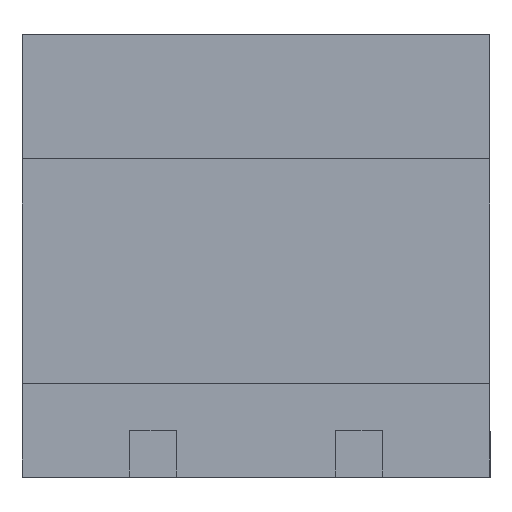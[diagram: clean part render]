
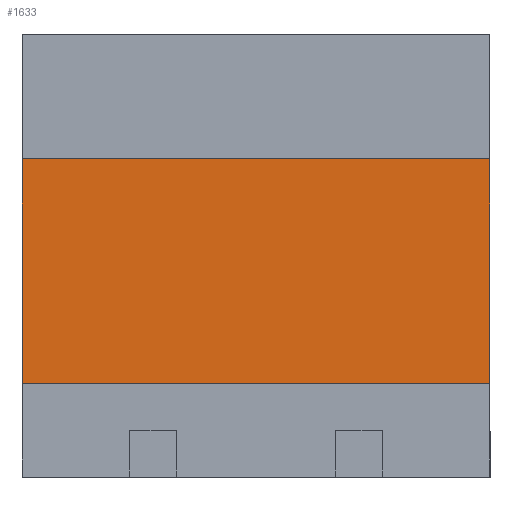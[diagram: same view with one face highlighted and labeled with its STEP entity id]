
A CAD part, top view. The second image highlights one B-rep face of the part: STEP entity #1633.
In plain terms, the highlighted planar face has unit normal (0, 0, 1).
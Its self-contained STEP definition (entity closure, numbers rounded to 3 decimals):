
#335 = ORIENTED_EDGE ( 'NONE', *, *, #5192, .T. ) ;
#574 = VERTEX_POINT ( 'NONE', #3574 ) ;
#846 = ORIENTED_EDGE ( 'NONE', *, *, #965, .F. ) ;
#965 = EDGE_CURVE ( 'NONE', #4986, #4260, #1405, .T. ) ;
#1018 = ORIENTED_EDGE ( 'NONE', *, *, #6455, .T. ) ;
#1066 = CARTESIAN_POINT ( 'NONE',  ( 0.787, 0.277, 2.25 ) ) ;
#1405 = LINE ( 'NONE', #4915, #2176 ) ;
#1633 = ADVANCED_FACE ( 'NONE', ( #7606 ), #4867, .F. ) ;
#1642 = LINE ( 'NONE', #4435, #2284 ) ;
#1765 = CARTESIAN_POINT ( 'NONE',  ( 0.787, 0.277, 2.25 ) ) ;
#2054 = CARTESIAN_POINT ( 'NONE',  ( 0.787, 0.277, 2.25 ) ) ;
#2176 = VECTOR ( 'NONE', #4208, 1000. ) ;
#2284 = VECTOR ( 'NONE', #7294, 1000. ) ;
#2523 = VECTOR ( 'NONE', #4752, 1000. ) ;
#2604 = EDGE_CURVE ( 'NONE', #3236, #4986, #5926, .T. ) ;
#2844 = DIRECTION ( 'NONE',  ( 1., 0., 0. ) ) ;
#3222 = AXIS2_PLACEMENT_3D ( 'NONE', #3399, #6910, #2844 ) ;
#3236 = VERTEX_POINT ( 'NONE', #2054 ) ;
#3399 = CARTESIAN_POINT ( 'NONE',  ( 0.787, 0.277, 2.25 ) ) ;
#3574 = CARTESIAN_POINT ( 'NONE',  ( 0.787, 0.997, 2.25 ) ) ;
#3884 = EDGE_LOOP ( 'NONE', ( #1018, #846, #8131, #335 ) ) ;
#4208 = DIRECTION ( 'NONE',  ( 0., 1., 0. ) ) ;
#4260 = VERTEX_POINT ( 'NONE', #7651 ) ;
#4435 = CARTESIAN_POINT ( 'NONE',  ( 0.787, 0.997, 2.25 ) ) ;
#4752 = DIRECTION ( 'NONE',  ( 0., 1., 0. ) ) ;
#4867 = PLANE ( 'NONE',  #3222 ) ;
#4915 = CARTESIAN_POINT ( 'NONE',  ( -0.713, 0.277, 2.25 ) ) ;
#4986 = VERTEX_POINT ( 'NONE', #6226 ) ;
#5192 = EDGE_CURVE ( 'NONE', #3236, #574, #8282, .T. ) ;
#5926 = LINE ( 'NONE', #1066, #6156 ) ;
#6156 = VECTOR ( 'NONE', #8107, 1000. ) ;
#6226 = CARTESIAN_POINT ( 'NONE',  ( -0.713, 0.277, 2.25 ) ) ;
#6455 = EDGE_CURVE ( 'NONE', #574, #4260, #1642, .T. ) ;
#6910 = DIRECTION ( 'NONE',  ( 0., 0., -1. ) ) ;
#7294 = DIRECTION ( 'NONE',  ( -1., 0., 0. ) ) ;
#7606 = FACE_OUTER_BOUND ( 'NONE', #3884, .T. ) ;
#7651 = CARTESIAN_POINT ( 'NONE',  ( -0.713, 0.997, 2.25 ) ) ;
#8107 = DIRECTION ( 'NONE',  ( -1., 0., 0. ) ) ;
#8131 = ORIENTED_EDGE ( 'NONE', *, *, #2604, .F. ) ;
#8282 = LINE ( 'NONE', #1765, #2523 ) ;
